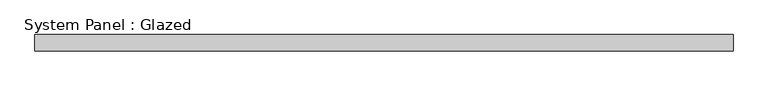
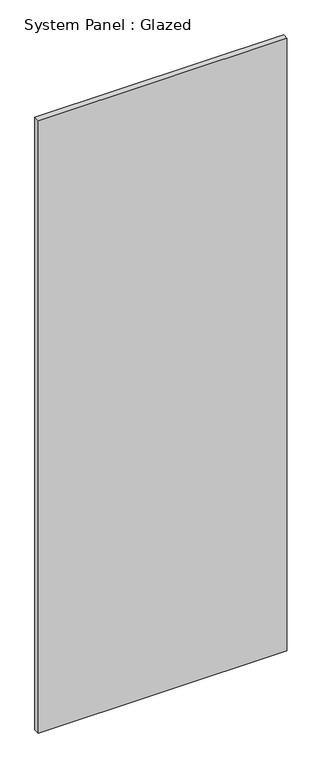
"""IFC4 building model written with IfcOpenShell, lengths in millimetres: plate geometry, System Panel : Glazed."""

from ifc_helpers import new_model, si_unit, origin, origin_with_axes, place, context, project, spatial, polyline, outline, extrude, source, transform, mapped, element, save


def system_panel_glazed_8c8c4c65(model_context):
    return source(origin(), model_context, "Body", "SweptSolid", [
        extrude(outline(polyline([(537.5, -25.0), (-537.5, -25.0), (-537.5, 0.0), (537.5, 0.0), (537.5, -25.0)])), origin_with_axes(), (0.0, 0.0, 1.0), 2800.0),
    ])


if __name__ == "__main__":
    model = new_model("IFC4")
    model_context = context("Model", 3, world=origin())
    ifc_project = project(units=[si_unit("LENGTHUNIT", "METRE", prefix="MILLI")], contexts=[model_context])
    site = spatial("IfcSite", under=ifc_project)
    building = spatial("IfcBuilding", under=site)
    placement = place(None, origin())
    system_panel_glazed_shape = system_panel_glazed_8c8c4c65(model_context)
    element("IfcPlate", 1, ObjectType="System Panel : Glazed", at=placement, inside=building, context=model_context, shape_type="MappedRepresentation", body=[
        mapped(system_panel_glazed_shape, transform((0.0, 0.0, 0.0), x_axis=(1.0, 0.0, 0.0), y_axis=(0.0, 1.0, 0.0), z_axis=(0.0, 0.0, 1.0))),
    ])
    save(model, "model.ifc")
